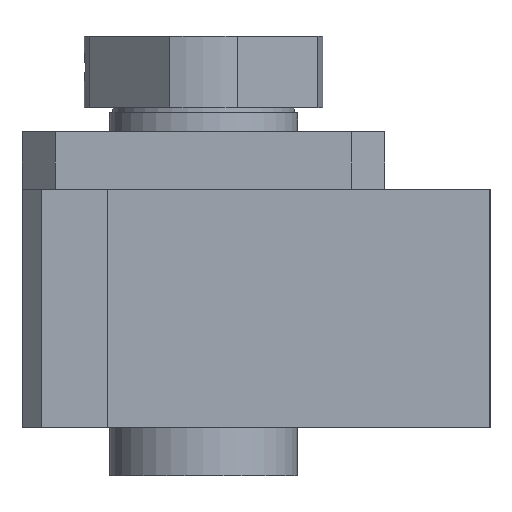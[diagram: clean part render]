
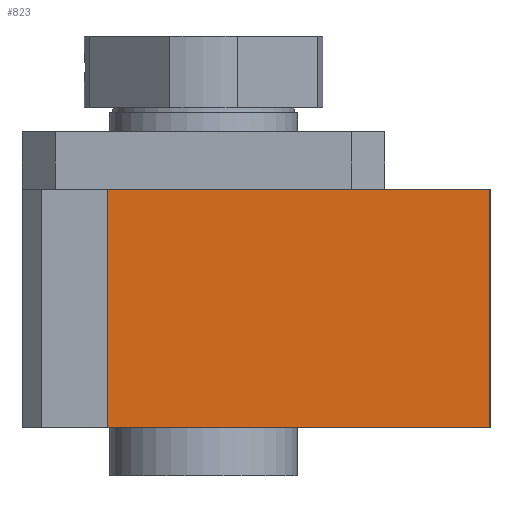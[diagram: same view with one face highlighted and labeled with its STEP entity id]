
A CAD part, left-side view. The second image highlights one B-rep face of the part: STEP entity #823.
In plain terms, the highlighted planar face has unit normal (-1, 0, 0).
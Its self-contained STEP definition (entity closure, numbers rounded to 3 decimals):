
#34=LINE($,#1362,#104);
#74=LINE($,#1482,#144);
#75=LINE($,#1484,#145);
#76=LINE($,#1485,#146);
#104=VECTOR($,#979,40.);
#144=VECTOR($,#1113,25.);
#145=VECTOR($,#1114,40.);
#146=VECTOR($,#1115,25.);
#184=FACE_OUTER_BOUND($,#321,.T.);
#321=EDGE_LOOP($,(#707,#708,#709,#710));
#399=VERTEX_POINT($,#1359);
#400=VERTEX_POINT($,#1361);
#433=VERTEX_POINT($,#1481);
#434=VERTEX_POINT($,#1483);
#479=EDGE_CURVE($,#400,#399,#34,.T.);
#532=EDGE_CURVE($,#399,#433,#74,.T.);
#533=EDGE_CURVE($,#434,#433,#75,.T.);
#534=EDGE_CURVE($,#400,#434,#76,.T.);
#707=ORIENTED_EDGE($,*,*,#479,.T.);
#708=ORIENTED_EDGE($,*,*,#532,.T.);
#709=ORIENTED_EDGE($,*,*,#533,.F.);
#710=ORIENTED_EDGE($,*,*,#534,.F.);
#775=PLANE($,#902);
#823=ADVANCED_FACE($,(#184),#775,.T.);
#902=AXIS2_PLACEMENT_3D($,#1480,#1111,#1112);
#979=DIRECTION($,(0.,-1.,0.));
#1111=DIRECTION('center_axis',(-1.,0.,0.));
#1112=DIRECTION('ref_axis',(0.,-1.,0.));
#1113=DIRECTION($,(0.,0.,1.));
#1114=DIRECTION($,(0.,-1.,0.));
#1115=DIRECTION($,(0.,0.,1.));
#1359=CARTESIAN_POINT('',(0.,0.,0.));
#1361=CARTESIAN_POINT('',(0.,40.,0.));
#1362=CARTESIAN_POINT($,(0.,40.,0.));
#1480=CARTESIAN_POINT('Origin',(0.,40.,0.));
#1481=CARTESIAN_POINT('',(0.,0.,25.));
#1482=CARTESIAN_POINT($,(0.,0.,0.));
#1483=CARTESIAN_POINT('',(0.,40.,25.));
#1484=CARTESIAN_POINT($,(0.,40.,25.));
#1485=CARTESIAN_POINT($,(0.,40.,0.));
